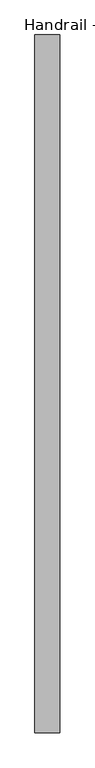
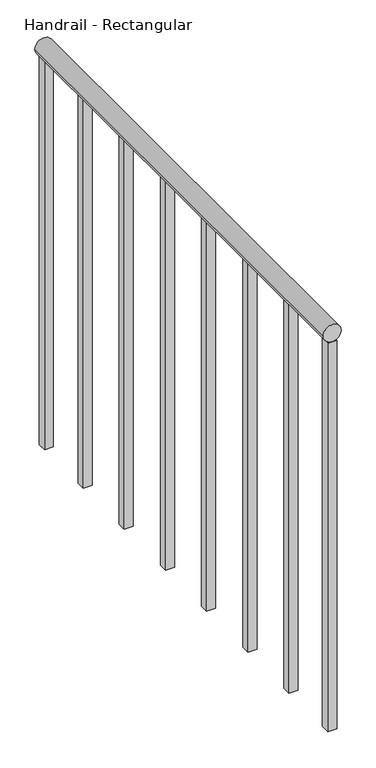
"""IFC4 building model written with IfcOpenShell, lengths in millimetres: railing geometry, Handrail - Rectangular."""

from ifc_helpers import new_model, si_unit, point, frame, frame_2d, origin, place, context, project, spatial, polyline, circle_curve, trimmed, segment, composite_curve, outline, extrude, source, transform, mapped, element, save


def handrail_rectangular_d55c21d1(model_context):
    return source(origin(), model_context, "Body", "SweptSolid", [
        extrude(outline(composite_curve([segment(trimmed(circle_curve(frame_2d((10039.35, -32167.4839563)), 19.05), [point((10039.35, -32186.5339563))], [point((10039.35, -32148.4339563))], False, "CARTESIAN"), True, "CONTINUOUS"), segment(trimmed(circle_curve(frame_2d((10039.35, -32167.4839563)), 19.05), [point((10039.35, -32148.4339563))], [point((10039.35, -32186.5339563))], False, "CARTESIAN"), True, "CONTINUOUS")], self_intersect=False)), frame((0.0, 6864.8316867, 0.0), z_axis=(0.0, 1.0, 0.0), x_axis=(0.0, 0.0, 1.0)), (0.0, 0.0, 1.0), 1066.8),
        extrude(outline(polyline([(-32157.9589563, 7026.7566867), (-32157.9589563, 7007.7066867), (-32177.0089563, 7007.7066867), (-32177.0089563, 7026.7566867), (-32157.9589563, 7026.7566867)])), frame((0.0, 0.0, 9144.0), z_axis=(0.0, 0.0, 1.0), x_axis=(1.0, 0.0, 0.0)), (0.0, 0.0, 1.0), 876.3),
        extrude(outline(polyline([(-32157.9589563, 7179.1566867), (-32157.9589563, 7160.1066867), (-32177.0089563, 7160.1066867), (-32177.0089563, 7179.1566867), (-32157.9589563, 7179.1566867)])), frame((0.0, 0.0, 9144.0), z_axis=(0.0, 0.0, 1.0), x_axis=(1.0, 0.0, 0.0)), (0.0, 0.0, 1.0), 876.3),
        extrude(outline(polyline([(-32157.9589563, 7331.5566867), (-32157.9589563, 7312.5066867), (-32177.0089563, 7312.5066867), (-32177.0089563, 7331.5566867), (-32157.9589563, 7331.5566867)])), frame((0.0, 0.0, 9144.0), z_axis=(0.0, 0.0, 1.0), x_axis=(1.0, 0.0, 0.0)), (0.0, 0.0, 1.0), 876.3),
        extrude(outline(polyline([(-32157.9589563, 7483.9566867), (-32157.9589563, 7464.9066867), (-32177.0089563, 7464.9066867), (-32177.0089563, 7483.9566867), (-32157.9589563, 7483.9566867)])), frame((0.0, 0.0, 9144.0), z_axis=(0.0, 0.0, 1.0), x_axis=(1.0, 0.0, 0.0)), (0.0, 0.0, 1.0), 876.3),
        extrude(outline(polyline([(-32157.9589563, 7636.3566867), (-32157.9589563, 7617.3066867), (-32177.0089563, 7617.3066867), (-32177.0089563, 7636.3566867), (-32157.9589563, 7636.3566867)])), frame((0.0, 0.0, 9144.0), z_axis=(0.0, 0.0, 1.0), x_axis=(1.0, 0.0, 0.0)), (0.0, 0.0, 1.0), 876.3),
        extrude(outline(polyline([(-32157.9589563, 7788.7566867), (-32157.9589563, 7769.7066867), (-32177.0089563, 7769.7066867), (-32177.0089563, 7788.7566867), (-32157.9589563, 7788.7566867)])), frame((0.0, 0.0, 9144.0), z_axis=(0.0, 0.0, 1.0), x_axis=(1.0, 0.0, 0.0)), (0.0, 0.0, 1.0), 876.3),
        extrude(outline(polyline([(-32157.9589563, 6883.8816867), (-32157.9589563, 6864.8316867), (-32177.0089563, 6864.8316867), (-32177.0089563, 6883.8816867), (-32157.9589563, 6883.8816867)])), frame((0.0, 0.0, 9144.0), z_axis=(0.0, 0.0, 1.0), x_axis=(1.0, 0.0, 0.0)), (0.0, 0.0, 1.0), 876.3),
        extrude(outline(polyline([(-32157.9589563, 7931.6316867), (-32157.9589563, 7912.5816867), (-32177.0089563, 7912.5816867), (-32177.0089563, 7931.6316867), (-32157.9589563, 7931.6316867)])), frame((0.0, 0.0, 9144.0), z_axis=(0.0, 0.0, 1.0), x_axis=(1.0, 0.0, 0.0)), (0.0, 0.0, 1.0), 876.3),
    ])


if __name__ == "__main__":
    model = new_model("IFC4")
    model_context = context("Model", 3, world=origin())
    ifc_project = project(units=[si_unit("LENGTHUNIT", "METRE", prefix="MILLI")], contexts=[model_context])
    site = spatial("IfcSite", under=ifc_project)
    building = spatial("IfcBuilding", under=site)
    placement = place(None, origin())
    handrail_rectangular_shape = handrail_rectangular_d55c21d1(model_context)
    element("IfcRailing", 1, ObjectType="Handrail - Rectangular", at=placement, inside=building, context=model_context, shape_type="MappedRepresentation", body=[
        mapped(handrail_rectangular_shape, transform((0.0, 0.0, 0.0), x_axis=(1.0, 0.0, 0.0), y_axis=(0.0, 1.0, 0.0), z_axis=(0.0, 0.0, 1.0))),
    ])
    save(model, "model.ifc")
